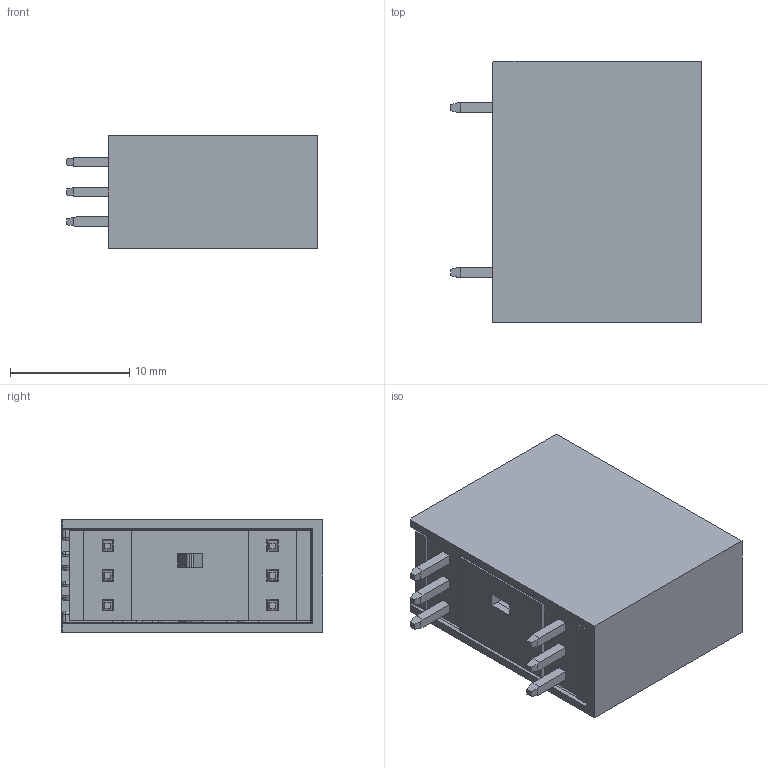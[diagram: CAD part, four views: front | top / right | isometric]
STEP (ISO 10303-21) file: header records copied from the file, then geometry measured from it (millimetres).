
FILE_DESCRIPTION((''),'2;1');
FILE_NAME('VL06B1510000G','2021-05-10T',('renkang.li'),(''),'CREO PARAMETRIC BY PTC INC, 2016260','CREO PARAMETRIC BY PTC INC, 2016260','');
FILE_SCHEMA(('CONFIG_CONTROL_DESIGN'));
Length unit declared in the file: millimetre
Products named in the file (1): VL06B1510000G
Bounding box: 21 x 21.9 x 9.4 mm (x, y, z)
Volume: 1725.4 mm3; surface area: 4295.5 mm2
Topology: 1 solids, 13 shells, 819 faces, 2206 edges, 1368 vertices
Faces by surface type: plane 647, cylinder 102, cone 38, torus 26, sphere 6
Entity records: 24955 total; most frequent: CARTESIAN_POINT 4444, ORIENTED_EDGE 4348, DIRECTION 4072, EDGE_CURVE 2174, VECTOR 1870, LINE 1870, VERTEX_POINT 1368, AXIS2_PLACEMENT_3D 1101
